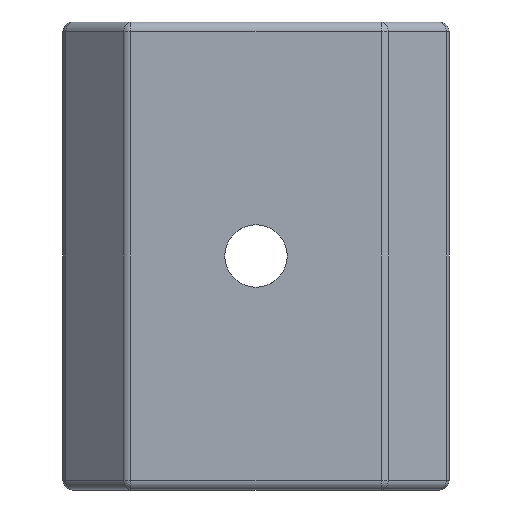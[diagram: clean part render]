
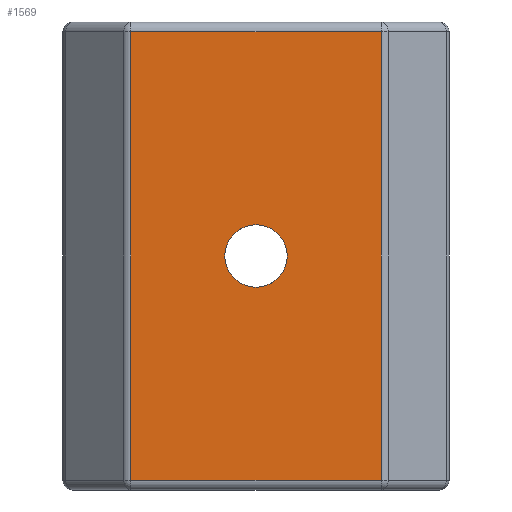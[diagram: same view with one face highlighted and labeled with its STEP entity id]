
A CAD part, front view. The second image highlights one B-rep face of the part: STEP entity #1569.
In plain terms, the highlighted planar face has unit normal (0, -1, 0).
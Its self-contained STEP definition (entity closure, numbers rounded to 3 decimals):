
#121 = DIRECTION ( 'NONE',  ( 0., 0., 1. ) ) ;
#137 = EDGE_CURVE ( 'NONE', #1388, #2213, #1248, .T. ) ;
#195 = LINE ( 'NONE', #1136, #283 ) ;
#274 = CARTESIAN_POINT ( 'NONE',  ( 5.14, -6.533, -0.5 ) ) ;
#281 = LINE ( 'NONE', #1031, #1313 ) ;
#283 = VECTOR ( 'NONE', #400, 1000. ) ;
#318 = EDGE_CURVE ( 'NONE', #858, #1859, #195, .T. ) ;
#334 = VECTOR ( 'NONE', #488, 1000. ) ;
#336 = EDGE_LOOP ( 'NONE', ( #1534, #2196 ) ) ;
#376 = ORIENTED_EDGE ( 'NONE', *, *, #2052, .T. ) ;
#391 = ORIENTED_EDGE ( 'NONE', *, *, #318, .T. ) ;
#400 = DIRECTION ( 'NONE',  ( 0., 0., -1. ) ) ;
#461 = AXIS2_PLACEMENT_3D ( 'NONE', #1228, #1247, #856 ) ;
#478 = VERTEX_POINT ( 'NONE', #274 ) ;
#479 = DIRECTION ( 'NONE',  ( 1., 0., 0. ) ) ;
#488 = DIRECTION ( 'NONE',  ( -1., 0., 0. ) ) ;
#558 = EDGE_CURVE ( 'NONE', #1859, #1588, #281, .T. ) ;
#594 = LINE ( 'NONE', #1406, #334 ) ;
#675 = CARTESIAN_POINT ( 'NONE',  ( 5.14, -6.533, -23.5 ) ) ;
#715 = FACE_OUTER_BOUND ( 'NONE', #1828, .T. ) ;
#853 = CARTESIAN_POINT ( 'NONE',  ( 5.14, -6.533, -24. ) ) ;
#856 = DIRECTION ( 'NONE',  ( 0., 0., -1. ) ) ;
#858 = VERTEX_POINT ( 'NONE', #2406 ) ;
#864 = CARTESIAN_POINT ( 'NONE',  ( -1.283, -6.533, -12. ) ) ;
#936 = ORIENTED_EDGE ( 'NONE', *, *, #558, .T. ) ;
#968 = AXIS2_PLACEMENT_3D ( 'NONE', #2202, #1102, #1449 ) ;
#1000 = ORIENTED_EDGE ( 'NONE', *, *, #1957, .T. ) ;
#1031 = CARTESIAN_POINT ( 'NONE',  ( -7.913, -6.533, -23.5 ) ) ;
#1053 = CARTESIAN_POINT ( 'NONE',  ( -1.283, -6.533, -13.6 ) ) ;
#1102 = DIRECTION ( 'NONE',  ( 0., 1., 0. ) ) ;
#1136 = CARTESIAN_POINT ( 'NONE',  ( -7.705, -6.533, -24. ) ) ;
#1146 = FACE_BOUND ( 'NONE', #336, .T. ) ;
#1228 = CARTESIAN_POINT ( 'NONE',  ( -7.913, -6.533, -24. ) ) ;
#1247 = DIRECTION ( 'NONE',  ( 0., -1., 0. ) ) ;
#1248 = CIRCLE ( 'NONE', #968, 1.6 ) ;
#1259 = LINE ( 'NONE', #853, #2054 ) ;
#1313 = VECTOR ( 'NONE', #479, 1000. ) ;
#1341 = EDGE_CURVE ( 'NONE', #2213, #1388, #1390, .T. ) ;
#1388 = VERTEX_POINT ( 'NONE', #1053 ) ;
#1390 = CIRCLE ( 'NONE', #1670, 1.6 ) ;
#1406 = CARTESIAN_POINT ( 'NONE',  ( -7.913, -6.533, -0.5 ) ) ;
#1449 = DIRECTION ( 'NONE',  ( 0., 0., -1. ) ) ;
#1534 = ORIENTED_EDGE ( 'NONE', *, *, #1341, .T. ) ;
#1542 = CARTESIAN_POINT ( 'NONE',  ( -1.283, -6.533, -10.4 ) ) ;
#1569 = ADVANCED_FACE ( 'NONE', ( #715, #1146 ), #2344, .T. ) ;
#1588 = VERTEX_POINT ( 'NONE', #675 ) ;
#1670 = AXIS2_PLACEMENT_3D ( 'NONE', #864, #2155, #1777 ) ;
#1777 = DIRECTION ( 'NONE',  ( 0., 0., -1. ) ) ;
#1828 = EDGE_LOOP ( 'NONE', ( #391, #936, #376, #1000 ) ) ;
#1859 = VERTEX_POINT ( 'NONE', #2279 ) ;
#1957 = EDGE_CURVE ( 'NONE', #478, #858, #594, .T. ) ;
#2052 = EDGE_CURVE ( 'NONE', #1588, #478, #1259, .T. ) ;
#2054 = VECTOR ( 'NONE', #121, 1000. ) ;
#2155 = DIRECTION ( 'NONE',  ( 0., 1., 0. ) ) ;
#2196 = ORIENTED_EDGE ( 'NONE', *, *, #137, .T. ) ;
#2202 = CARTESIAN_POINT ( 'NONE',  ( -1.283, -6.533, -12. ) ) ;
#2213 = VERTEX_POINT ( 'NONE', #1542 ) ;
#2279 = CARTESIAN_POINT ( 'NONE',  ( -7.705, -6.533, -23.5 ) ) ;
#2344 = PLANE ( 'NONE',  #461 ) ;
#2406 = CARTESIAN_POINT ( 'NONE',  ( -7.705, -6.533, -0.5 ) ) ;
